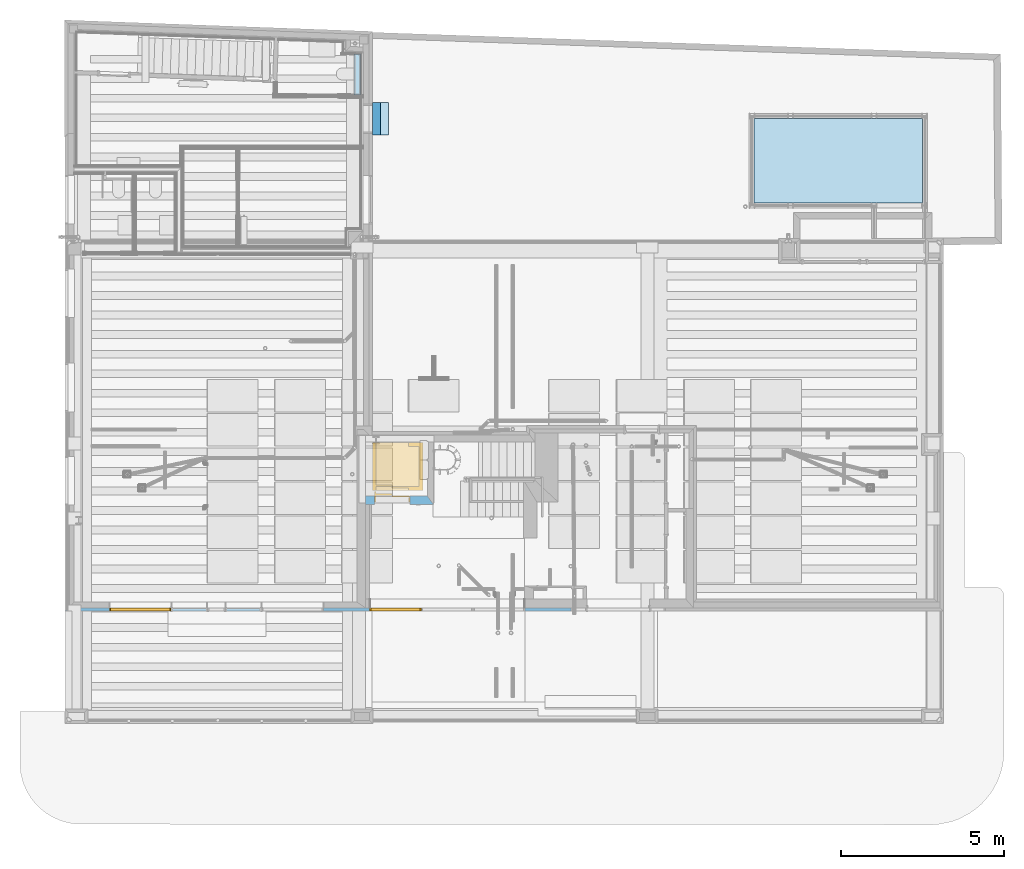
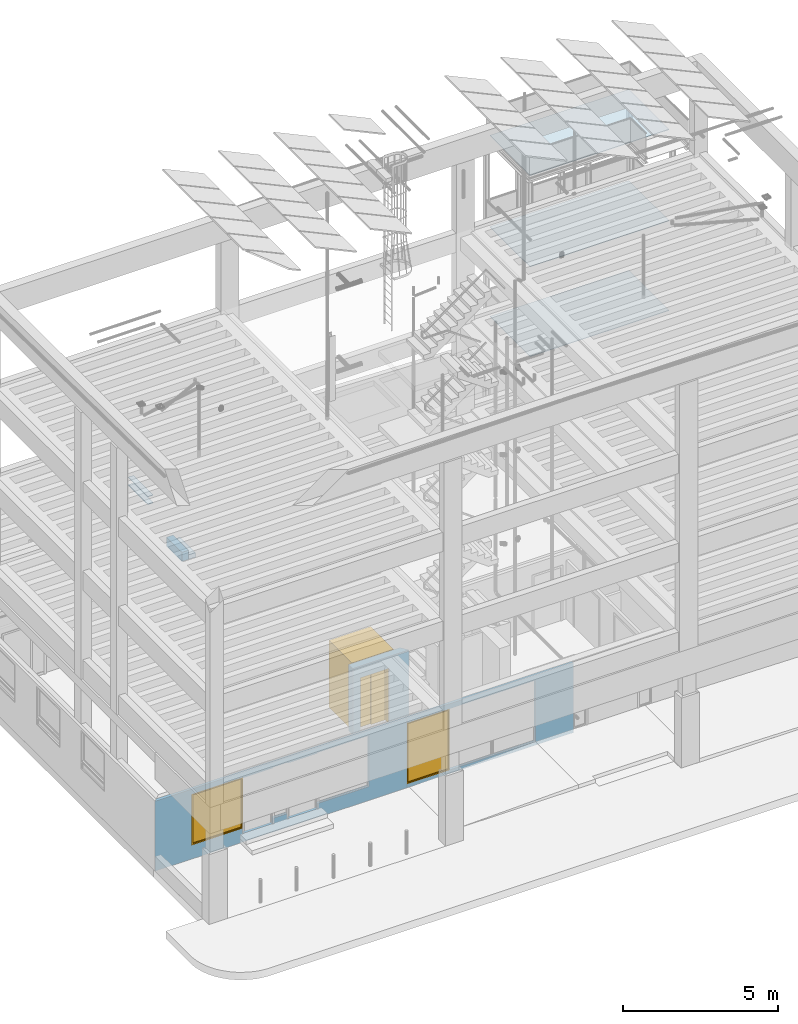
# One storey, part 21 of 108: 7 slabs, 2 windows, 1 door, 3 openings, plus 3 elements that do not belong to this part.
"""IFC2X3 building model written with IfcOpenShell, lengths in metres."""

from ifc_helpers import new_model, entity, si_unit, converted_unit, derived_unit, money_unit, direction, frame, frame_2d, origin_with_axes, place, context, subcontext, project, spatial, polyline, rectangle, outline, extrude, faceted_brep, material, layer, layer_set, layer_usage, type_object, element, fill, save


model = new_model("IFC2X3")

# Units and contexts
model_context = context("Model", 3, precision=1e-05, world=origin_with_axes(), true_north=direction((0.0, 1.0)))
body_context = subcontext(model_context, "Body", "Model", "MODEL_VIEW", scale=1.0)
ifc_project = project(units=[si_unit("LENGTHUNIT", "METRE"), si_unit("AREAUNIT", "SQUARE_METRE"), si_unit("VOLUMEUNIT", "CUBIC_METRE"), si_unit("ABSORBEDDOSEUNIT", "GRAY"), si_unit("AMOUNTOFSUBSTANCEUNIT", "MOLE"), si_unit("DOSEEQUIVALENTUNIT", "SIEVERT"), si_unit("ELECTRICCAPACITANCEUNIT", "FARAD"), si_unit("ELECTRICCHARGEUNIT", "COULOMB"), si_unit("ELECTRICCONDUCTANCEUNIT", "SIEMENS"), si_unit("ELECTRICCURRENTUNIT", "AMPERE"), si_unit("ELECTRICRESISTANCEUNIT", "OHM"), si_unit("ELECTRICVOLTAGEUNIT", "VOLT"), si_unit("ENERGYUNIT", "JOULE"), si_unit("FORCEUNIT", "NEWTON"), si_unit("FREQUENCYUNIT", "HERTZ"), si_unit("ILLUMINANCEUNIT", "LUX"), si_unit("INDUCTANCEUNIT", "HENRY"), si_unit("LUMINOUSFLUXUNIT", "LUMEN"), si_unit("LUMINOUSINTENSITYUNIT", "CANDELA"), si_unit("MAGNETICFLUXDENSITYUNIT", "TESLA"), si_unit("MAGNETICFLUXUNIT", "WEBER"), si_unit("MASSUNIT", "GRAM"), converted_unit("PLANEANGLEUNIT", "degree", entity("IfcReal", 0.0174532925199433), si_unit("PLANEANGLEUNIT", "RADIAN"), dimensions=[0, 0, 0, 0, 0, 0, 0]), si_unit("POWERUNIT", "WATT"), si_unit("PRESSUREUNIT", "PASCAL"), si_unit("RADIOACTIVITYUNIT", "BECQUEREL"), si_unit("SOLIDANGLEUNIT", "STERADIAN"), si_unit("THERMODYNAMICTEMPERATUREUNIT", "KELVIN"), si_unit("TIMEUNIT", "SECOND"), derived_unit("ACCELERATIONUNIT", [(si_unit("LENGTHUNIT", "METRE"), 1), (si_unit("TIMEUNIT", "SECOND"), -2)]), derived_unit("ANGULARVELOCITYUNIT", [(converted_unit("PLANEANGLEUNIT", "degree", entity("IfcReal", 0.0174532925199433), si_unit("PLANEANGLEUNIT", "RADIAN"), dimensions=[0, 0, 0, 0, 0, 0, 0]), 1), (si_unit("TIMEUNIT", "SECOND"), -1)]), derived_unit("CURVATUREUNIT", [(converted_unit("PLANEANGLEUNIT", "degree", entity("IfcReal", 0.0174532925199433), si_unit("PLANEANGLEUNIT", "RADIAN"), dimensions=[0, 0, 0, 0, 0, 0, 0]), 1), (si_unit("LENGTHUNIT", "METRE"), -1)]), derived_unit("DYNAMICVISCOSITYUNIT", [(si_unit("PRESSUREUNIT", "PASCAL"), 1), (si_unit("TIMEUNIT", "SECOND"), 1)]), derived_unit("HEATFLUXDENSITYUNIT", [(si_unit("POWERUNIT", "WATT"), 1), (si_unit("LENGTHUNIT", "METRE"), -2)]), derived_unit("HEATINGVALUEUNIT", [(si_unit("ENERGYUNIT", "JOULE"), 1), (si_unit("MASSUNIT", "GRAM"), -1)]), derived_unit("INTEGERCOUNTRATEUNIT", [(si_unit("TIMEUNIT", "SECOND"), -1)]), derived_unit("IONCONCENTRATIONUNIT", [(si_unit("MASSUNIT", "GRAM"), 1), (si_unit("VOLUMEUNIT", "CUBIC_METRE"), -1)]), derived_unit("ISOTHERMALMOISTURECAPACITYUNIT", [(si_unit("VOLUMEUNIT", "CUBIC_METRE"), 1), (si_unit("MASSUNIT", "GRAM"), -1)]), derived_unit("KINEMATICVISCOSITYUNIT", [(si_unit("AREAUNIT", "SQUARE_METRE"), 1), (si_unit("TIMEUNIT", "SECOND"), -1)]), derived_unit("LINEARFORCEUNIT", [(si_unit("FORCEUNIT", "NEWTON"), 1), (si_unit("LENGTHUNIT", "METRE"), -1)]), derived_unit("LINEARMOMENTUNIT", [(si_unit("FORCEUNIT", "NEWTON"), 1), (si_unit("LENGTHUNIT", "METRE"), -1)]), derived_unit("LINEARSTIFFNESSUNIT", [(si_unit("FORCEUNIT", "NEWTON"), 1), (si_unit("LENGTHUNIT", "METRE"), -1)]), derived_unit("LINEARVELOCITYUNIT", [(si_unit("LENGTHUNIT", "METRE"), 1), (si_unit("TIMEUNIT", "SECOND"), -1)]), derived_unit("LUMINOUSINTENSITYDISTRIBUTIONUNIT", [(si_unit("LUMINOUSINTENSITYUNIT", "CANDELA"), 1), (si_unit("LUMINOUSFLUXUNIT", "LUMEN"), -1)]), derived_unit("MASSDENSITYUNIT", [(si_unit("MASSUNIT", "GRAM"), 1), (si_unit("VOLUMEUNIT", "CUBIC_METRE"), -1)]), derived_unit("MASSFLOWRATEUNIT", [(si_unit("MASSUNIT", "GRAM"), 1), (si_unit("TIMEUNIT", "SECOND"), -1)]), derived_unit("MASSPERLENGTHUNIT", [(si_unit("MASSUNIT", "GRAM"), 1), (si_unit("LENGTHUNIT", "METRE"), -1)]), derived_unit("MODULUSOFELASTICITYUNIT", [(si_unit("FORCEUNIT", "NEWTON"), 1), (si_unit("AREAUNIT", "SQUARE_METRE"), -1)]), derived_unit("MODULUSOFLINEARSUBGRADEREACTIONUNIT", [(si_unit("FORCEUNIT", "NEWTON"), 1), (si_unit("LENGTHUNIT", "METRE"), -2)]), derived_unit("MODULUSOFROTATIONALSUBGRADEREACTIONUNIT", [(si_unit("FORCEUNIT", "NEWTON"), 1), (si_unit("LENGTHUNIT", "METRE"), 1)]), derived_unit("MODULUSOFSUBGRADEREACTIONUNIT", [(si_unit("FORCEUNIT", "NEWTON"), 1), (si_unit("VOLUMEUNIT", "CUBIC_METRE"), -1)]), derived_unit("MOISTUREDIFFUSIVITYUNIT", [(si_unit("VOLUMEUNIT", "CUBIC_METRE"), 1), (si_unit("TIMEUNIT", "SECOND"), -1)]), derived_unit("MOLECULARWEIGHTUNIT", [(si_unit("MASSUNIT", "GRAM"), 1), (si_unit("AMOUNTOFSUBSTANCEUNIT", "MOLE"), -1)]), derived_unit("PLANARFORCEUNIT", [(si_unit("FORCEUNIT", "NEWTON"), 1), (si_unit("LENGTHUNIT", "METRE"), -2)]), derived_unit("ROTATIONALFREQUENCYUNIT", [(si_unit("TIMEUNIT", "SECOND"), -1)]), derived_unit("ROTATIONALMASSUNIT", [(si_unit("MASSUNIT", "GRAM"), 1), (si_unit("LENGTHUNIT", "METRE"), 2)]), derived_unit("ROTATIONALSTIFFNESSUNIT", [(si_unit("FORCEUNIT", "NEWTON"), 1), (si_unit("LENGTHUNIT", "METRE"), 1), (converted_unit("PLANEANGLEUNIT", "degree", entity("IfcReal", 0.0174532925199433), si_unit("PLANEANGLEUNIT", "RADIAN"), dimensions=[0, 0, 0, 0, 0, 0, 0]), -1)]), derived_unit("SECTIONAREAINTEGRALUNIT", [(si_unit("LENGTHUNIT", "METRE"), 5)]), derived_unit("SECTIONMODULUSUNIT", [(si_unit("LENGTHUNIT", "METRE"), 3)]), derived_unit("SHEARMODULUSUNIT", [(si_unit("FORCEUNIT", "NEWTON"), 1), (si_unit("AREAUNIT", "SQUARE_METRE"), -1)]), derived_unit("SOUNDPOWERUNIT", [(si_unit("ENERGYUNIT", "JOULE"), 1), (si_unit("TIMEUNIT", "SECOND"), -1)]), derived_unit("SPECIFICHEATCAPACITYUNIT", [(si_unit("FORCEUNIT", "NEWTON"), 1), (si_unit("MASSUNIT", "GRAM"), -1), (si_unit("THERMODYNAMICTEMPERATUREUNIT", "KELVIN"), -1)]), derived_unit("TEMPERATUREGRADIENTUNIT", [(si_unit("THERMODYNAMICTEMPERATUREUNIT", "KELVIN"), 1), (si_unit("LENGTHUNIT", "METRE"), -1)]), derived_unit("THERMALADMITTANCEUNIT", [(si_unit("POWERUNIT", "WATT"), 1), (si_unit("AREAUNIT", "SQUARE_METRE"), -1), (si_unit("THERMODYNAMICTEMPERATUREUNIT", "KELVIN"), -1)]), derived_unit("THERMALCONDUCTANCEUNIT", [(si_unit("POWERUNIT", "WATT"), 1), (si_unit("LENGTHUNIT", "METRE"), -1), (si_unit("THERMODYNAMICTEMPERATUREUNIT", "KELVIN"), -1)]), derived_unit("THERMALEXPANSIONCOEFFICIENTUNIT", [(si_unit("THERMODYNAMICTEMPERATUREUNIT", "KELVIN"), -1)]), derived_unit("THERMALRESISTANCEUNIT", [(si_unit("AREAUNIT", "SQUARE_METRE"), 1), (si_unit("POWERUNIT", "WATT"), -1)]), derived_unit("THERMALTRANSMITTANCEUNIT", [(si_unit("POWERUNIT", "WATT"), 1), (si_unit("AREAUNIT", "SQUARE_METRE"), -1), (si_unit("THERMODYNAMICTEMPERATUREUNIT", "KELVIN"), -1)]), derived_unit("TORQUEUNIT", [(si_unit("FORCEUNIT", "NEWTON"), 1), (si_unit("LENGTHUNIT", "METRE"), 1)]), derived_unit("VAPORPERMEABILITYUNIT", [(si_unit("MASSUNIT", "GRAM"), 1), (si_unit("TIMEUNIT", "SECOND"), -1)]), derived_unit("VOLUMETRICFLOWRATEUNIT", [(si_unit("VOLUMEUNIT", "CUBIC_METRE"), 1), (si_unit("TIMEUNIT", "SECOND"), -1)]), derived_unit("WARPINGCONSTANTUNIT", [(si_unit("LENGTHUNIT", "METRE"), 6)]), derived_unit("WARPINGMOMENTUNIT", [(si_unit("FORCEUNIT", "NEWTON"), 1), (si_unit("LENGTHUNIT", "METRE"), 2)]), money_unit("GBP")], contexts=[model_context])

# Site, building, storey
site_placement = place(None, origin_with_axes())
site = spatial("IfcSite", under=ifc_project, at=site_placement, Name="Site", CompositionType="ELEMENT")
building_placement = place(site_placement, origin_with_axes())
building = spatial("IfcBuilding", under=site, at=building_placement, Name="Building01", CompositionType="ELEMENT")
storey_placement = place(building_placement, origin_with_axes())
storey = spatial("IfcBuildingStorey", under=building, at=storey_placement, Name="GF", CompositionType="ELEMENT", Elevation=0.0)

# Slabs
ifc_material_1 = material(Name="A_BSUK_Slabs")
slab_type_1 = type_object("IfcSlabType", Name="A-FloorsSlabs A_BSUK_Slabs", PredefinedType="FLOOR")
placement = place(storey_placement, origin_with_axes())
element("IfcSlab", 1, at=placement, inside=storey, type_object=slab_type_1, material=ifc_material_1, Name="A-FloorsSlabs A_BSUK_Slabs", ObjectType="CompoundSlabLeaf", context=body_context, shape_type="Brep", body=[
    faceted_brep([(9.443418, 18.083912, -0.162), (9.443418, 18.083912, 0.198), (9.443418, 19.083912, 0.198), (9.443418, 19.083912, -0.162), (9.693418, 18.083912, -0.162), (9.693418, 18.083912, 0.198), (9.693418, 19.083912, -0.162), (9.693418, 19.083912, 0.198)], [[[0, 1, 2, 3]], [[4, 5, 1, 0]], [[6, 7, 5, 4]], [[3, 2, 7, 6]], [[1, 5, 7, 2]], [[3, 6, 4, 0]]]),
])
element("IfcSlab", 2, at=placement, inside=storey, type_object=slab_type_1, material=ifc_material_1, Name="A-FloorsSlabs A_BSUK_Slabs", ObjectType="CompoundSlabLeaf", context=body_context, shape_type="Brep", body=[
    faceted_brep([(9.693418, 18.083912, -0.162), (9.693418, 18.083912, 0.018), (9.693418, 19.083912, 0.018), (9.693418, 19.083912, -0.162), (9.943418, 18.083912, -0.162), (9.943418, 18.083912, 0.018), (9.943418, 19.083912, -0.162), (9.943418, 19.083912, 0.018)], [[[0, 1, 2, 3]], [[4, 5, 1, 0]], [[6, 7, 5, 4]], [[3, 2, 7, 6]], [[1, 5, 7, 2]], [[3, 6, 4, 0]]]),
])
ifc_material_2 = material(Name="A_BSUK_Ceramic_WallTiles")
element("IfcSlab", 3, at=placement, inside=storey, type_object=slab_type_1, material=ifc_material_2, Name="A-FloorsSlabs A_BSUK_Slabs", ObjectType="CompoundSlabLeaf", context=body_context, shape_type="Brep", body=[
    faceted_brep([(8.882265, 20.573007, 1.823), (8.882265, 20.573007, 1.848), (9.082265, 20.565959, 1.848), (9.082265, 20.565959, 1.823), (8.882265, 19.308916, 1.823), (8.882265, 19.308916, 1.848), (9.082265, 19.307574, 1.823), (9.082265, 19.307574, 1.848)], [[[0, 1, 2, 3]], [[4, 5, 1, 0]], [[6, 7, 5, 4]], [[3, 2, 7, 6]], [[1, 5, 7, 2]], [[3, 6, 4, 0]]]),
])
ifc_material_3 = material(Name="A_BSUK_StainlessSteelRailingSystems")
element("IfcSlab", 4, at=placement, inside=storey, type_object=slab_type_1, material=ifc_material_3, Name="A-FloorsSlabs A_BSUK_Slabs", ObjectType="CompoundSlabLeaf", context=body_context, shape_type="Brep", body=[
    faceted_brep([(21.168834, 18.584781, 8.567442), (21.168834, 18.584781, 8.587442), (26.332635, 18.584781, 8.587442), (26.332635, 18.584781, 8.567442), (21.168834, 15.994581, 8.567442), (21.168834, 15.994581, 8.587442), (26.332635, 15.994581, 8.567442), (26.332635, 15.994581, 8.587442)], [[[0, 1, 2, 3]], [[4, 5, 1, 0]], [[6, 7, 5, 4]], [[3, 2, 7, 6]], [[1, 5, 7, 2]], [[3, 6, 4, 0]]]),
])
element("IfcSlab", 5, at=placement, inside=storey, type_object=slab_type_1, material=ifc_material_3, Name="A-FloorsSlabs A_BSUK_Slabs", ObjectType="CompoundSlabLeaf", context=body_context, shape_type="Brep", body=[
    faceted_brep([(21.168834, 18.584781, 12.151013), (21.168834, 18.584781, 12.171013), (26.332635, 18.584781, 12.171013), (26.332635, 18.584781, 12.151013), (21.168834, 15.994581, 12.151013), (21.168834, 15.994581, 12.171013), (26.332635, 15.994581, 12.151013), (26.332635, 15.994581, 12.171013)], [[[0, 1, 2, 3]], [[4, 5, 1, 0]], [[6, 7, 5, 4]], [[3, 2, 7, 6]], [[1, 5, 7, 2]], [[3, 6, 4, 0]]]),
])
element("IfcSlab", 6, at=placement, inside=storey, type_object=slab_type_1, material=ifc_material_3, Name="A-FloorsSlabs A_BSUK_Slabs", ObjectType="CompoundSlabLeaf", context=body_context, shape_type="Brep", body=[
    faceted_brep([(21.168834, 18.584781, 5.044467), (21.168834, 18.584781, 5.064467), (26.332635, 18.584781, 5.064467), (26.332635, 18.584781, 5.044467), (21.168834, 15.994581, 5.044467), (21.168834, 15.994581, 5.064467), (26.332635, 15.994581, 5.044467), (26.332635, 15.994581, 5.064467)], [[[0, 1, 2, 3]], [[4, 5, 1, 0]], [[6, 7, 5, 4]], [[3, 2, 7, 6]], [[1, 5, 7, 2]], [[3, 6, 4, 0]]]),
])
ifc_material_4 = material(Name="A_BSUK_Ceramic_FloorTiles")
slab_type_2 = type_object("IfcSlabType", Name="A-Finishes A_BSUK_Ceramic_FloorTiles", PredefinedType="FLOOR")
element("IfcSlab", 7, at=placement, inside=storey, type_object=slab_type_2, material=ifc_material_4, Name="A-Finishes A_BSUK_Ceramic_FloorTiles", ObjectType="CompoundSlabLeaf", context=body_context, shape_type="Brep", body=[
    faceted_brep([(8.882265, 20.573007, 1.523), (8.882265, 20.573007, 1.548), (9.082265, 20.565959, 1.548), (9.082265, 20.565959, 1.523), (8.882265, 19.308916, 1.523), (8.882265, 19.308916, 1.548), (9.082265, 19.307574, 1.523), (9.082265, 19.307574, 1.548)], [[[0, 1, 2, 3]], [[4, 5, 1, 0]], [[6, 7, 5, 4]], [[3, 2, 7, 6]], [[1, 5, 7, 2]], [[3, 6, 4, 0]]]),
])

# Wall, opening
ifc_material_5 = material(Name="A_BSUK_WallsExternal_Brick")
ifc_layer_1 = layer(ifc_material_5, 0.1, ventilated=False)
ifc_layer_set_1 = layer_set([ifc_layer_1])
ifc_layer_usage_1 = layer_usage(ifc_layer_set_1, "AXIS2", "POSITIVE", 0.0)
wall_type_1 = type_object("IfcWallType", Name="A-Walls-ExternalBrick", PredefinedType="NOTDEFINED")
wall_1_placement = place(storey_placement, frame((0.00013, 3.459516, -0.145), z_axis=(0.0, 0.0, 1.0), x_axis=(1.0, -3.756e-05, 0.0)))
wall_1 = element("IfcWallStandardCase", 8, at=wall_1_placement, inside=storey, type_object=wall_type_1, material=ifc_layer_usage_1, Name="A-Walls-ExternalBrick", ObjectType="A-Walls-ExternalBrick", context=body_context, shape_type="SweptSolid", body=[
    extrude(outline(polyline([(9.353966, 0.1), (0.1, 0.1), (0.0, 0.0), (9.353966, 0.0), (9.353966, 0.1)])), origin_with_axes(), (0.0, 0.0, 1.0), 2.745),
])
opening_1_placement = place(wall_1_placement, frame((1.361548, 0.0, 0.343), z_axis=(0.0, 0.0, 1.0), x_axis=(1.0, 0.0, 0.0)))
opening_1 = element("IfcOpeningElement", 9, at=opening_1_placement, cuts=wall_1, Name="Opening", ObjectType="Opening", context=body_context, shape_type="Brep", body=[
    faceted_brep([(3.55, 0.1, 0.2), (3.03, 0.1, 0.2), (3.03, 0.1, 0.0), (1.896, 0.1, 0.0), (1.896, 0.1, 0.2), (0.0, 0.1, 0.2), (0.0, 0.1, 2.2), (1.9, 0.1, 2.2), (1.9, 0.1, 2.172), (3.015, 0.1, 2.172), (3.015, 0.1, 2.2), (3.565, 0.1, 2.2), (3.565, 0.1, 2.172), (4.68, 0.1, 2.172), (4.68, 0.1, 2.2), (6.58, 0.1, 2.2), (6.58, 0.1, 0.2), (4.684, 0.1, 0.2), (4.684, 0.1, 0.0), (3.55, 0.1, 0.0), (1.896004, 0.0, 0.0), (1.896004, 0.0, 0.2), (1.900004, 0.0, 2.172), (3.015004, 0.0, 2.172), (3.030004, 0.0, 0.2), (3.030004, 0.0, 0.0), (3.550004, 0.0, 0.2), (3.550004, 0.0, 0.0), (4.684004, 0.0, 0.0), (4.684004, 0.0, 0.2), (6.580004, 0.0, 0.2), (6.580004, 0.0, 2.2), (4.680004, 0.0, 2.2), (4.680004, 0.0, 2.172), (3.565004, 0.0, 2.172), (3.565004, 0.0, 2.2), (3.015004, 0.0, 2.2), (1.900004, 0.0, 2.2), (4e-06, 0.0, 2.2), (4e-06, 0.0, 0.2)], [[[0, 1, 2, 3, 4, 5, 6, 7, 8, 9, 10, 11, 12, 13, 14, 15, 16, 17, 18, 19]], [[4, 3, 20, 21]], [[9, 8, 22, 23]], [[24, 25, 2, 1]], [[20, 3, 2, 25]], [[26, 27, 28, 29, 30, 31, 32, 33, 34, 35, 36, 23, 22, 37, 38, 39, 21, 20, 25, 24]], [[4, 21, 39, 5]], [[38, 6, 5, 39]], [[37, 7, 6, 38]], [[22, 8, 7, 37]], [[26, 24, 1, 0]], [[9, 23, 36, 10]], [[35, 11, 10, 36]], [[12, 11, 35, 34]], [[27, 19, 18, 28]], [[26, 0, 19, 27]], [[12, 34, 33, 13]], [[29, 28, 18, 17]], [[29, 17, 16, 30]], [[13, 33, 32, 14]], [[31, 15, 14, 32]], [[30, 16, 15, 31]]]),
])

# Space
space_1_placement = place(storey_placement, frame((0.665095, 0.0, 0.0), z_axis=(0.0, 0.0, 1.0), x_axis=(1.0, -4.064e-05, 0.0)))
space_1 = spatial("IfcSpace", under=storey, at=space_1_placement, Name="UNDERCROFT (front)", CompositionType="ELEMENT", InteriorOrExteriorSpace="NOTDEFINED")

# Window
ifc_material_6 = material(Name="A_BSUK_Window_Frames")
window_style = type_object("IfcWindowStyle", Name="A-Fixed", ConstructionType="NOTDEFINED", OperationType="USERDEFINED", ParameterTakesPrecedence=False, Sizeable=False)
window_1_placement = place(opening_1_placement, frame((1.900004, -0.001003, 0.2), z_axis=(0.0, 0.0, 1.0), x_axis=(1.0, 3.756e-05, 0.0)))
window_1 = element("IfcWindow", 10, at=window_1_placement, inside=space_1, type_object=window_style, material=ifc_material_6, Name="0.02", ObjectType="A-Fixed", OverallHeight=2.00000000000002, OverallWidth=1.90000000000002, context=body_context, shape_type="Brep", body=[
    faceted_brep([(-0.042, 0.0, 0.042), (-0.042, 0.0, 1.958), (-0.042, 0.1, 1.958), (-0.042, 0.1, 0.042), (0.0, 0.1, 2.0), (-1.9, 0.1, 2.0), (-1.9, 0.0, 2.0), (0.0, 0.0, 2.0), (0.0, 0.1, 0.0), (0.0, 0.0, 0.0), (-1.9, 0.1, 0.0), (-1.9, 0.0, 0.0), (-1.858, 0.1, 1.958), (-1.858, 0.1, 0.042), (-1.858, 0.0, 0.042), (-1.858, 0.0, 1.958)], [[[0, 1, 2, 3]], [[4, 5, 6, 7]], [[8, 4, 7, 9]], [[10, 8, 9, 11]], [[5, 10, 11, 6]], [[5, 4, 8, 10], [3, 2, 12, 13]], [[14, 0, 3, 13]], [[15, 14, 13, 12]], [[1, 15, 12, 2]], [[9, 7, 6, 11], [15, 1, 0, 14]]]),
    faceted_brep([(-0.042, 0.053175, 1.958), (-0.042, 0.046825, 1.958), (-0.042, 0.046825, 0.042), (-0.042, 0.053175, 0.042), (-1.858, 0.053175, 0.042), (-1.858, 0.046825, 0.042), (-1.858, 0.046825, 1.958), (-1.858, 0.053175, 1.958)], [[[0, 1, 2, 3]], [[4, 5, 6, 7]], [[3, 2, 5, 4]], [[3, 4, 7, 0]], [[7, 6, 1, 0]], [[1, 6, 5, 2]]]),
])

fill(opening_1, window_1)

# Wall, opening, window
wall_2_placement = place(storey_placement, frame((9.354092, 3.458823, -0.145), z_axis=(0.0, 0.0, 1.0), x_axis=(1.0, -3.756e-05, 0.0)))
wall_2 = element("IfcWallStandardCase", 11, at=wall_2_placement, inside=storey, type_object=wall_type_1, material=ifc_layer_usage_1, Name="A-Walls-ExternalBrick", ObjectType="A-Walls-ExternalBrick", context=body_context, shape_type="SweptSolid", body=[
    extrude(rectangle(XDim=6.191074, YDim=0.1, at=frame_2d((3.095537, 0.05), x_axis=(-1.0, 0.0))), origin_with_axes(), (0.0, 0.0, 1.0), 2.745),
])
opening_2_placement = place(wall_2_placement, frame((4e-06, 0.0, 0.145), z_axis=(0.0, 0.0, 1.0), x_axis=(1.0, 0.0, 0.0)))
opening_2 = element("IfcOpeningElement", 12, at=opening_2_placement, cuts=wall_2, Name="Opening", ObjectType="Opening", context=body_context, shape_type="Brep", body=[
    faceted_brep([(4.77, 0.1, 2.4), (4.77, 0.1, 0.0), (0.0, 0.1, 0.0), (0.0, 0.1, 2.4), (4e-06, 0.0, 0.0), (4.770004, 0.0, 0.0), (4.770004, 0.0, 2.4), (4e-06, 0.0, 2.4)], [[[0, 1, 2, 3]], [[4, 2, 1, 5]], [[6, 0, 3, 7]], [[7, 4, 5, 6]], [[7, 3, 2, 4]], [[5, 1, 0, 6]]]),
])
window_2_placement = place(opening_2_placement, frame((1.590004, -0.000372, 0.0), z_axis=(0.0, 0.0, 1.0), x_axis=(1.0, 3.756e-05, 0.0)))
window_2 = element("IfcWindow", 13, at=window_2_placement, inside=space_1, type_object=window_style, material=ifc_material_6, Name="0.06", ObjectType="A-Fixed", OverallHeight=2.40000000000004, OverallWidth=1.59000000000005, context=body_context, shape_type="Brep", body=[
    faceted_brep([(-0.042, 0.0, 0.042), (-0.042, 0.0, 2.358), (-0.042, 0.1, 2.358), (-0.042, 0.1, 0.042), (0.0, 0.1, 2.4), (-1.59, 0.1, 2.4), (-1.59, 0.0, 2.4), (0.0, 0.0, 2.4), (0.0, 0.1, 0.0), (0.0, 0.0, 0.0), (-1.59, 0.1, 0.0), (-1.59, 0.0, 0.0), (-1.548, 0.1, 2.358), (-1.548, 0.1, 0.042), (-1.548, 0.0, 0.042), (-1.548, 0.0, 2.358)], [[[0, 1, 2, 3]], [[4, 5, 6, 7]], [[8, 4, 7, 9]], [[10, 8, 9, 11]], [[5, 10, 11, 6]], [[5, 4, 8, 10], [3, 2, 12, 13]], [[14, 0, 3, 13]], [[15, 14, 13, 12]], [[1, 15, 12, 2]], [[9, 7, 6, 11], [15, 1, 0, 14]]]),
    faceted_brep([(-0.042, 0.053175, 2.358), (-0.042, 0.046825, 2.358), (-0.042, 0.046825, 0.042), (-0.042, 0.053175, 0.042), (-1.548, 0.053175, 0.042), (-1.548, 0.046825, 0.042), (-1.548, 0.046825, 2.358), (-1.548, 0.053175, 2.358)], [[[0, 1, 2, 3]], [[4, 5, 6, 7]], [[3, 2, 5, 4]], [[3, 4, 7, 0]], [[7, 6, 1, 0]], [[1, 6, 5, 2]]]),
])
fill(opening_2, window_2)

# Wall, opening
ifc_material_7 = material(Name="A_BSUK_WallsInternal_Block")
ifc_layer_2 = layer(ifc_material_7, 0.264, ventilated=False)
ifc_layer_set_2 = layer_set([ifc_layer_2])
ifc_layer_usage_2 = layer_usage(ifc_layer_set_2, "AXIS2", "POSITIVE", 0.0)
wall_type_2 = type_object("IfcWallType", Name="A-Walls-InternalBlock", PredefinedType="NOTDEFINED")
wall_3_placement = place(storey_placement, frame((11.13, 6.989761, 0.0), z_axis=(0.0, 0.0, 1.0), x_axis=(-1.0, 0.0, 0.0)))
wall_3 = element("IfcWallStandardCase", 14, at=wall_3_placement, inside=storey, type_object=wall_type_2, material=ifc_layer_usage_2, Name="A-Walls-InternalBlock", ObjectType="A-Walls-InternalBlock", context=body_context, shape_type="SweptSolid", body=[
    extrude(outline(polyline([(1.900001, 0.264), (-0.1938, 0.264), (0.0, 0.0), (1.900001, 0.0), (1.900001, 0.264)])), origin_with_axes(), (0.0, 0.0, 1.0), 2.6),
])
opening_3_placement = place(wall_3_placement, frame((0.538302, 0.0, 0.0), z_axis=(0.0, 0.0, 1.0), x_axis=(1.0, 0.0, 0.0)))
opening_3 = element("IfcOpeningElement", 15, at=opening_3_placement, cuts=wall_3, Name="Opening", ObjectType="Opening", context=body_context, shape_type="SweptSolid", body=[
    extrude(rectangle(XDim=2.14, YDim=1.08, at=frame_2d((-0.54, 1.07), x_axis=(0.0, -1.0))), frame((0.0, 0.0, 0.0), z_axis=(0.0, 1.0, 0.0), x_axis=(-1.0, 0.0, 0.0)), (0.0, 0.0, 1.0), 0.264),
])

# Space
space_2_placement = place(storey_placement, frame((21.91816, 14.897172, 0.0), z_axis=(0.0, 0.0, 1.0), x_axis=(-1.0, 0.0, 0.0)))
space_2 = spatial("IfcSpace", under=storey, at=space_2_placement, Name="UNDERCROFT (back)", CompositionType="ELEMENT", InteriorOrExteriorSpace="NOTDEFINED")

# Door
ifc_material_8 = material(Name="A_BSUK_Doors")
door_style = type_object("IfcDoorStyle", Name="A-ElevatorDoor-2SpeedWithCab", ConstructionType="USERDEFINED", OperationType="USERDEFINED", ParameterTakesPrecedence=False, Sizeable=False)
door_placement = place(opening_3_placement, frame((1.04, 0.176215, 0.0), z_axis=(0.0, 0.0, 1.0), x_axis=(-1.0, 0.0, 0.0)))
door = element("IfcDoor", 16, at=door_placement, inside=space_2, type_object=door_style, material=ifc_material_8, Name="A-ElevatorDoor-2SpeedWithCab", ObjectType="A-ElevatorDoor-2SpeedWithCab", OverallHeight=2.14, OverallWidth=1.08, context=body_context, shape_type="Brep", body=[
    faceted_brep([(1.05, 0.0, 0.0), (1.05, 0.0, 2.1), (1.05, -0.012, 2.1), (1.05, -0.012, 0.0), (1.0, -0.012, 0.0), (1.0, -0.012, 2.1), (1.0, 0.137, 2.1), (1.0, 0.137, 0.0), (1.05, 0.137, 2.1), (1.05, 0.137, 0.0), (1.05, 0.125, 2.1), (1.05, 0.125, 0.0), (1.04, 0.125, 2.1), (1.04, 0.125, 0.0), (1.04, 0.0, 2.1), (1.04, 0.0, 0.0)], [[[0, 1, 2, 3]], [[4, 5, 6, 7]], [[7, 6, 8, 9]], [[9, 8, 10, 11]], [[11, 10, 12, 13]], [[13, 12, 14, 15]], [[15, 14, 1, 0]], [[3, 4, 7, 9, 11, 13, 15, 0]], [[3, 2, 5, 4]], [[1, 14, 12, 10, 8, 6, 5, 2]]]),
    faceted_brep([(1.05, 0.0, 2.2), (-0.05, 0.0, 2.2), (-0.05, -0.012, 2.2), (1.05, -0.012, 2.2), (1.05, -0.012, 2.1), (-0.05, -0.012, 2.1), (-0.05, 0.137, 2.1), (1.05, 0.137, 2.1), (-0.05, 0.137, 2.2), (1.05, 0.137, 2.2), (-0.05, 0.125, 2.2), (1.05, 0.125, 2.2), (-0.05, 0.125, 2.14), (1.05, 0.125, 2.14), (-0.05, 0.0, 2.14), (1.05, 0.0, 2.14)], [[[0, 1, 2, 3]], [[4, 5, 6, 7]], [[7, 6, 8, 9]], [[9, 8, 10, 11]], [[11, 10, 12, 13]], [[13, 12, 14, 15]], [[15, 14, 1, 0]], [[3, 4, 7, 9, 11, 13, 15, 0]], [[3, 2, 5, 4]], [[1, 14, 12, 10, 8, 6, 5, 2]]]),
    faceted_brep([(-0.05, 0.0, 2.1), (-0.05, 0.0, 0.0), (-0.05, -0.012, 0.0), (-0.05, -0.012, 2.1), (0.0, -0.012, 2.1), (0.0, -0.012, 0.0), (0.0, 0.137, 0.0), (0.0, 0.137, 2.1), (-0.05, 0.137, 0.0), (-0.05, 0.137, 2.1), (-0.05, 0.125, 0.0), (-0.05, 0.125, 2.1), (-0.04, 0.125, 0.0), (-0.04, 0.125, 2.1), (-0.04, 0.0, 0.0), (-0.04, 0.0, 2.1)], [[[0, 1, 2, 3]], [[4, 5, 6, 7]], [[7, 6, 8, 9]], [[9, 8, 10, 11]], [[11, 10, 12, 13]], [[13, 12, 14, 15]], [[15, 14, 1, 0]], [[3, 4, 7, 9, 11, 13, 15, 0]], [[3, 2, 5, 4]], [[1, 14, 12, 10, 8, 6, 5, 2]]]),
    faceted_brep([(-0.025, 0.25, 2.125), (-0.025, 0.2, 2.125), (0.5, 0.2, 2.125), (0.5, 0.25, 2.125), (0.5, 0.25, -0.025), (0.5, 0.2, -0.025), (-0.025, 0.2, -0.025), (-0.025, 0.25, -0.025)], [[[0, 1, 2, 3]], [[4, 5, 6, 7]], [[7, 6, 1, 0]], [[3, 4, 7, 0]], [[3, 2, 5, 4]], [[1, 6, 5, 2]]]),
    faceted_brep([(-0.025, 0.5254, 2.125), (-0.025, 0.4754, 2.125), (0.5, 0.4754, 2.125), (0.5, 0.5254, 2.125), (0.5, 0.5254, -0.0594), (0.5, 0.4754, -0.0594), (-0.025, 0.4754, -0.0594), (-0.025, 0.5254, -0.0594)], [[[0, 1, 2, 3]], [[4, 5, 6, 7]], [[7, 6, 1, 0]], [[3, 4, 7, 0]], [[3, 2, 5, 4]], [[1, 6, 5, 2]]]),
    faceted_brep([(1.025, 0.4254, 2.125), (1.025, 0.4754, 2.125), (0.5, 0.4754, 2.125), (0.5, 0.4254, 2.125), (0.5, 0.4254, -0.025), (0.5, 0.4754, -0.025), (1.025, 0.4754, -0.025), (1.025, 0.4254, -0.025)], [[[0, 1, 2, 3]], [[4, 5, 6, 7]], [[7, 6, 1, 0]], [[3, 4, 7, 0]], [[3, 2, 5, 4]], [[1, 6, 5, 2]]]),
    faceted_brep([(1.025, 0.15, 2.125), (1.025, 0.2, 2.125), (0.5, 0.2, 2.125), (0.5, 0.15, 2.125), (0.5, 0.15, -0.025), (0.5, 0.2, -0.025), (1.025, 0.2, -0.025), (1.025, 0.15, -0.025)], [[[0, 1, 2, 3]], [[4, 5, 6, 7]], [[7, 6, 1, 0]], [[3, 4, 7, 0]], [[3, 2, 5, 4]], [[1, 6, 5, 2]]]),
    faceted_brep([(1.45, 1.825, 2.4762), (1.45, 1.825, 2.4), (-0.1, 1.825, 2.4), (-0.1, 1.825, 2.4762), (-0.1, 0.35, 2.4762), (-0.1, 0.35, 2.4), (1.45, 0.35, 2.4), (1.45, 0.35, 2.4762)], [[[0, 1, 2, 3]], [[4, 5, 6, 7]], [[7, 6, 1, 0]], [[3, 4, 7, 0]], [[3, 2, 5, 4]], [[1, 6, 5, 2]]]),
    faceted_brep([(1.0, 0.35, 0.0), (1.45, 0.35, 0.0), (1.45, 1.825, 0.0), (1.0, 1.825, 0.0), (0.0, 0.35, 0.0), (0.0, 1.825, 0.0), (-0.1, 1.825, 0.0), (-0.1, 0.35, 0.0), (1.45, 1.825, -0.1524), (-0.1, 1.825, -0.1524), (1.45, 0.35, -0.1524), (-0.1, 0.35, -0.1524)], [[[0, 1, 2, 3]], [[4, 0, 3, 5]], [[5, 6, 7, 4]], [[3, 2, 8, 9, 6, 5]], [[10, 11, 9, 8]], [[11, 7, 6, 9]], [[4, 7, 11, 10, 1, 0]], [[8, 2, 1, 10]]]),
    faceted_brep([(-0.1, 1.825, 2.4), (-0.1, 1.825, 0.0), (-0.1, 0.35, 0.0), (-0.1, 0.35, 2.4), (1.0, 0.35, 0.0), (1.45, 0.35, 0.0), (1.45, 0.35, 2.4), (0.0, 0.35, 0.0), (0.0, 0.35, 2.1), (1.0, 0.35, 2.1), (0.0, 1.825, 2.1), (0.0, 1.825, 0.0), (1.0, 1.825, 2.1), (1.0, 1.698, 2.1), (0.027, 1.698, 2.1), (0.027, 0.477, 2.1), (1.0, 0.477, 2.1), (1.0, 1.825, 0.0), (1.0, 1.698, 0.0), (1.0, 0.477, 0.0), (0.027, 0.477, 2.4), (1.323, 0.477, 2.4), (1.323, 0.477, 0.0), (1.323, 1.698, 2.4), (1.323, 1.698, 0.0), (0.027, 1.698, 2.4), (1.45, 1.825, 0.0), (1.45, 1.825, 2.4)], [[[0, 1, 2, 3]], [[4, 5, 6, 3, 2, 7, 8, 9]], [[10, 8, 7, 11]], [[12, 13, 14, 15, 16, 9, 8, 10]], [[17, 18, 13, 12]], [[19, 4, 9, 16]], [[16, 15, 20, 21, 22, 19]], [[23, 24, 22, 21]], [[14, 25, 20, 15]], [[13, 18, 24, 23, 25, 14]], [[17, 26, 5, 4, 19, 22, 24, 18]], [[27, 0, 3, 6], [20, 25, 23, 21]], [[6, 5, 26, 27]], [[10, 11, 1, 0, 27, 26, 17, 12]], [[7, 2, 1, 11]]]),
    faceted_brep([(0.0, 0.137, 2.125), (0.0, 0.137, 0.0), (0.0, 0.3246, 0.0), (0.0, 0.3246, 2.125), (-0.05, 0.3246, 2.125), (-0.05, 0.3246, 0.0), (-0.05, 0.137, 0.0), (-0.05, 0.137, 2.125)], [[[0, 1, 2, 3]], [[4, 5, 6, 7]], [[7, 6, 1, 0]], [[3, 4, 7, 0]], [[3, 2, 5, 4]], [[1, 6, 5, 2]]]),
])

fill(opening_3, door)

save(model, "model.ifc")
